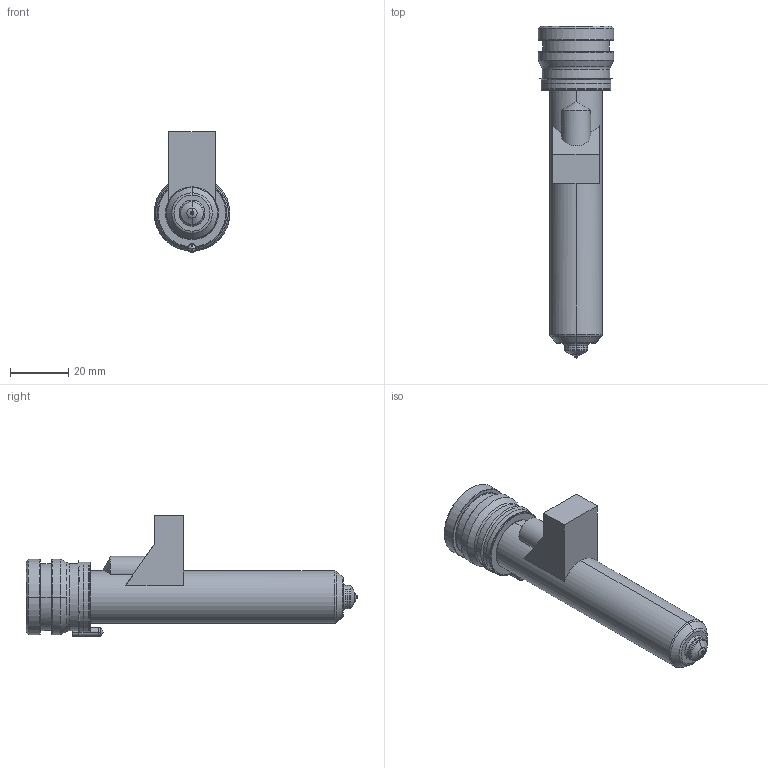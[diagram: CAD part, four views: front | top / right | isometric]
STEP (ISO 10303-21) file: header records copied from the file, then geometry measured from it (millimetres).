
FILE_DESCRIPTION((''),'2;1');
FILE_NAME('MPN-08-24-VSA8-096-M','2026-02-05T13:34:16',('UPTIO'),('Thermoplay S.p.A.'),'CREO PARAMETRIC BY PTC INC, 2023494','CREO PARAMETRIC BY PTC INC, 2023494','');
FILE_SCHEMA(('CONFIG_CONTROL_DESIGN','SHAPE_APPEARANCE_LAYERS_GROUPS'));
Length unit declared in the file: millimetre
Products named in the file (1): MPN-08-24-VSA8-096-M
Bounding box: 26 x 114 x 41.5 mm (x, y, z)
Volume: 22818.9 mm3; surface area: 29801.7 mm2
Topology: 2 solids, 3 shells, 527 faces, 1374 edges, 846 vertices
Faces by surface type: cylinder 176, plane 143, bspline 75, torus 60, cone 58, sphere 9, extrusion 6
Entity records: 27352 total; most frequent: CARTESIAN_POINT 11873, ORIENTED_EDGE 2730, DIRECTION 2497, EDGE_CURVE 1365, AXIS2_PLACEMENT_3D 975, VERTEX_POINT 846, EDGE_LOOP 557, VECTOR 547
